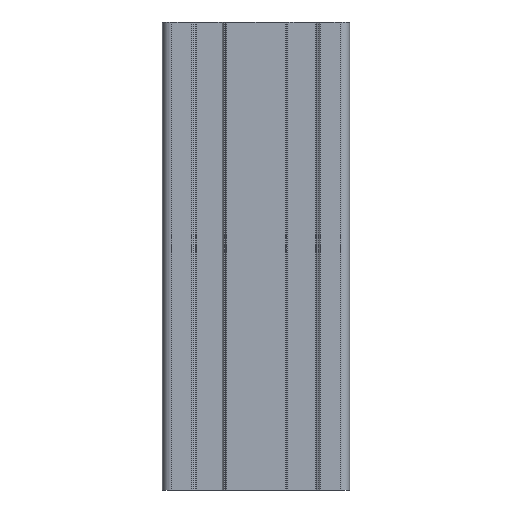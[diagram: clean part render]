
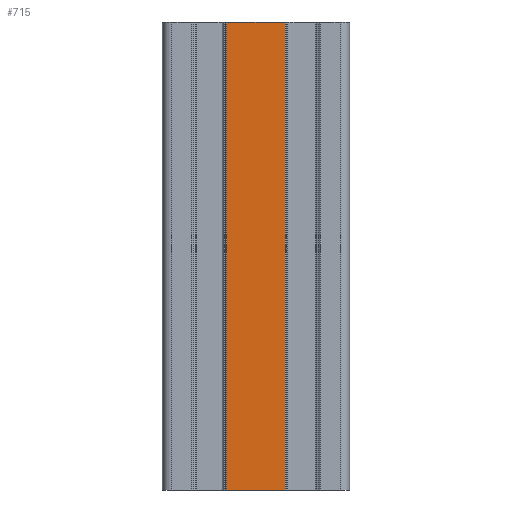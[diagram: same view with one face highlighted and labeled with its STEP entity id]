
A CAD part, front view. The second image highlights one B-rep face of the part: STEP entity #715.
In plain terms, the highlighted planar face has unit normal (0, -1, 0).
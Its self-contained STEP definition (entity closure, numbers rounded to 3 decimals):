
#715=ADVANCED_FACE('',(#1773),#1775,.T.);
#1773=FACE_BOUND('',#1774,.T.);
#1774=EDGE_LOOP('',(#2726,#2727,#2728,#2729));
#1775=PLANE('',#1776);
#1776=AXIS2_PLACEMENT_3D('',#1777,#1778,#1779);
#1777=CARTESIAN_POINT('',(-6.25,-10.,-50.));
#1778=DIRECTION('',(0.,-1.,0.));
#1779=DIRECTION('',(1.,0.,0.));
#2726=ORIENTED_EDGE('',*,*,#3019,.T.);
#2727=ORIENTED_EDGE('',*,*,#3291,.T.);
#2728=ORIENTED_EDGE('',*,*,#3150,.F.);
#2729=ORIENTED_EDGE('',*,*,#3292,.F.);
#3019=EDGE_CURVE('',#3465,#3463,#3466,.T.);
#3150=EDGE_CURVE('',#3725,#3727,#3728,.T.);
#3291=EDGE_CURVE('',#3463,#3727,#3939,.T.);
#3292=EDGE_CURVE('',#3465,#3725,#3940,.T.);
#3463=VERTEX_POINT('',#4248);
#3465=VERTEX_POINT('',#4253);
#3466=LINE('',#4254,#4255);
#3725=VERTEX_POINT('',#4826);
#3727=VERTEX_POINT('',#4831);
#3728=LINE('',#4832,#4833);
#3939=LINE('',#5353,#5354);
#3940=LINE('',#5356,#5357);
#4248=CARTESIAN_POINT('',(6.25,-10.,-50.));
#4253=CARTESIAN_POINT('',(-6.25,-10.,-50.));
#4254=CARTESIAN_POINT('',(-6.25,-10.,-50.));
#4255=VECTOR('',#4256,1.);
#4256=DIRECTION('',(1.,0.,0.));
#4826=CARTESIAN_POINT('',(-6.25,-10.,50.));
#4831=CARTESIAN_POINT('',(6.25,-10.,50.));
#4832=CARTESIAN_POINT('',(-6.25,-10.,50.));
#4833=VECTOR('',#4834,1.);
#4834=DIRECTION('',(1.,0.,0.));
#5353=CARTESIAN_POINT('',(6.25,-10.,-50.));
#5354=VECTOR('',#5355,1.);
#5355=DIRECTION('',(0.,0.,1.));
#5356=CARTESIAN_POINT('',(-6.25,-10.,-50.));
#5357=VECTOR('',#5358,1.);
#5358=DIRECTION('',(0.,0.,1.));
